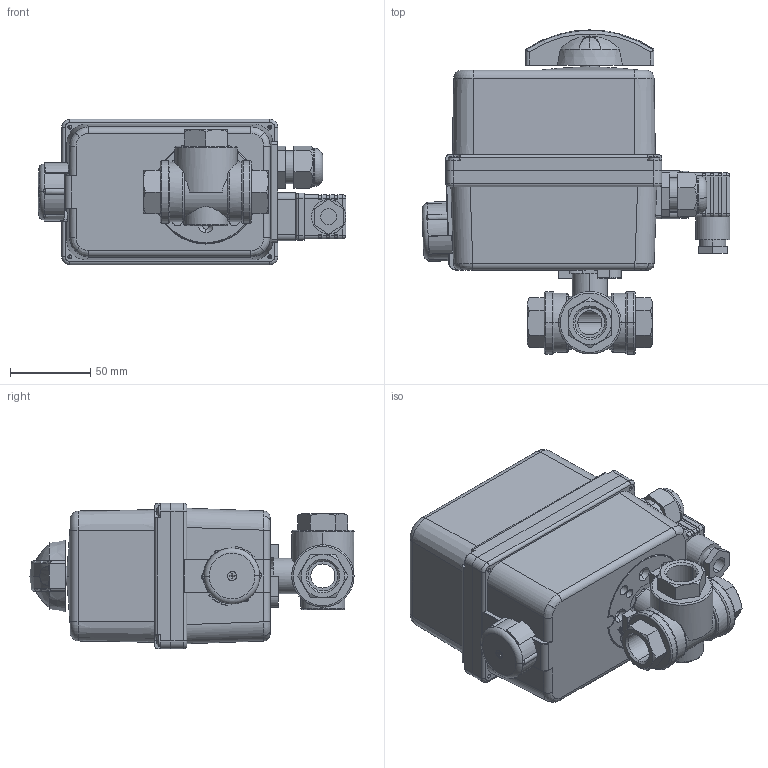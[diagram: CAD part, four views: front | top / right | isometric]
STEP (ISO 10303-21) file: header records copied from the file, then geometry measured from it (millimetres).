
FILE_DESCRIPTION (( 'STEP AP214' ), '1' );
FILE_NAME ('A35 DN15 + ER10_20.STEP', '2012-04-20T13:47:45', ( '' ), ( '' ), 'SwSTEP 2.0', 'SolidWorks 2011', '' );
FILE_SCHEMA (( 'AUTOMOTIVE_DESIGN' ));
Length unit declared in the file: millimetre
Products named in the file (18): Warteldoorvoer M20; Connector ECD.1; Moer voor Connector 2; Bout M3x30; ER10-20-35 Connector 2; ER10-20-35 Pakking; ER10-20-35 Connector 1; ER10-20-35 Indicator; ER10-20-35 Knop 3 - Lang; Cross FH Tapping 7976_DIN_Tapping screw DIN 7982-ST2.9x19-C-H-N; ER10-20-35 Knop 1 - Declutch; Schijf F03 F05; Sheet Metal Screws_DIN_Tapping screw DIN 7049-ST3.5x16-C-H-N; ER10-20-35 Afdekkap; ER10-20-35 Aandrijving; Ballvalve A35-DN15 G1_2; A35 DN15 + ER10_20; ER10-20
Assembly tree (21 placements, depth 4):
  A35 DN15 + ER10_20
    Ballvalve A35-DN15 G1_2
    ER10-20
      ER10-20-35 Indicator  x2
      Sheet Metal Screws_DIN_Tapping screw DIN 7049-ST3.5x16-C-H-N  x4
      ER10-20-35 Aandrijving
      Warteldoorvoer M20
      ER10-20-35 Afdekkap
      ER10-20-35 Knop 3 - Lang
      Cross FH Tapping 7976_DIN_Tapping screw DIN 7982-ST2.9x19-C-H-N
      ER10-20-35 Knop 1 - Declutch
      Schijf F03 F05
      Connector ECD.1
        ER10-20-35 Connector 1
        Bout M3x30
        ER10-20-35 Pakking
        ER10-20-35 Connector 2
        Moer voor Connector 2
Bounding box: 192.34 x 202.5 x 91 mm (x, y, z)
Volume: 1489135.9 mm3; surface area: 176368.6 mm2
Topology: 19 solids, 19 shells, 1109 faces, 2848 edges, 1836 vertices
Faces by surface type: plane 512, cylinder 366, bspline 95, cone 71, torus 51, sphere 14
Entity records: 37324 total; most frequent: CARTESIAN_POINT 10921, ORIENTED_EDGE 5122, DIRECTION 4983, EDGE_CURVE 2561, AXIS2_PLACEMENT_3D 1807, VERTEX_POINT 1659, VECTOR 1369, LINE 1369
